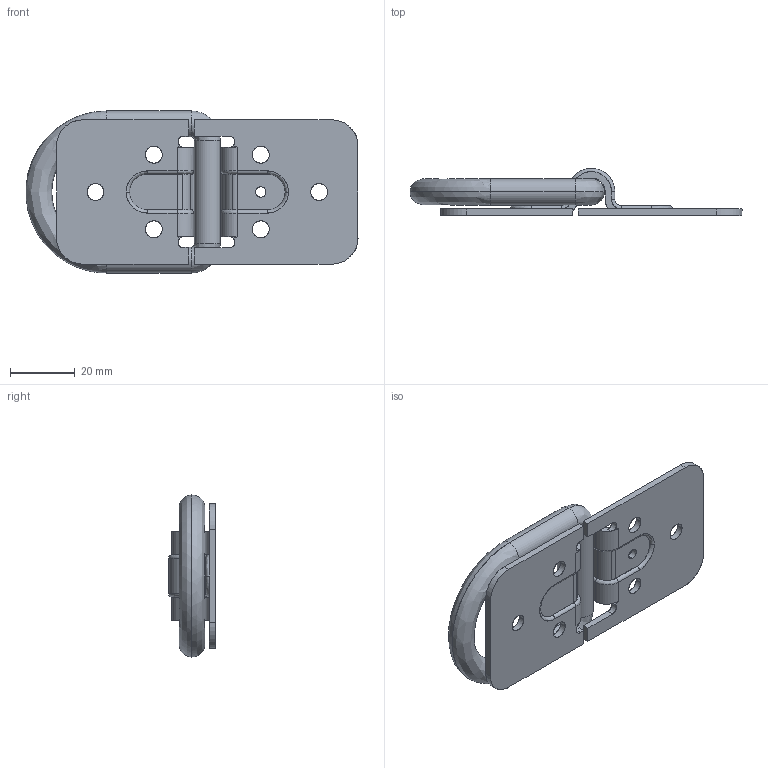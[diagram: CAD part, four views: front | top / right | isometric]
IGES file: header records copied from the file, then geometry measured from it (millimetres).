
Start section: SolidWorks IGES FILE using analytic representation for surfaces
Global section: file name: \\Srv-compta\user\CBRECHARD\Mes documents\ATAO iges\Gamme PE\PE 350\PE 350.IGS; native system: SolidWorks 2004 by SolidWorks Corporation; preprocessor: Version 5.3; author: Administrateur; date: 070918.161719; units: millimetre
Bounding box: 102.44 x 14.5 x 50 mm (x, y, z)
Surface area: 13762.1 mm2 (no closed solid volume)
Topology: 0 solids, 0 shells, 140 faces, 1538 edges, 1535 vertices
Faces by surface type: revolution 70, bspline 70
